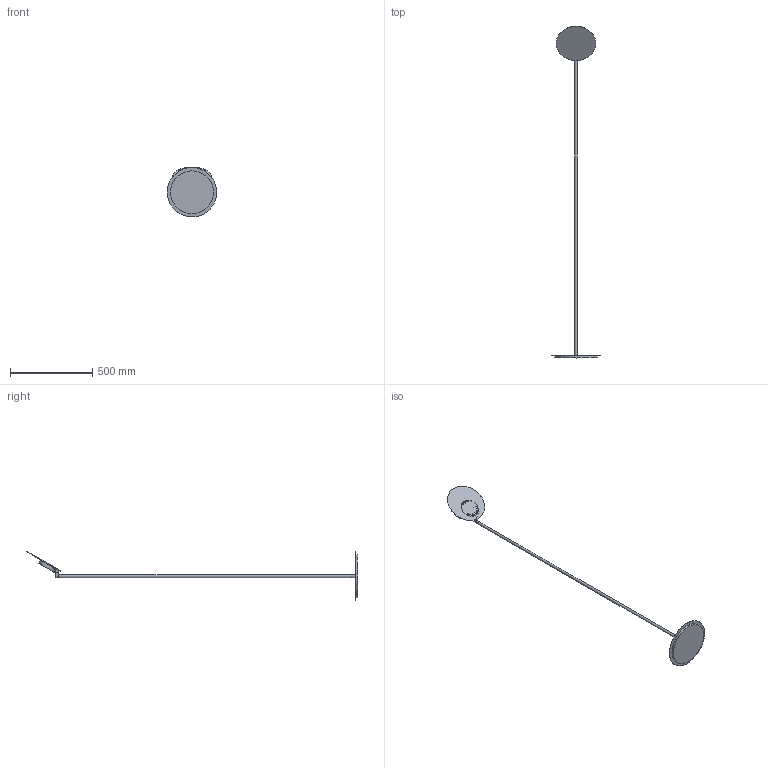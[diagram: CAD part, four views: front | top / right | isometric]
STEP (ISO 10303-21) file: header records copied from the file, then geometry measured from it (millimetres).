
FILE_DESCRIPTION(/* description */ (''),/* implementation_level */ '2;1');
FILE_NAME(/* name */ 'STOP.stp',/* time_stamp */ '2025-01-29T11:57:55+01:00',/* author */ ('n.bisotti'),/* organization */ (''),/* preprocessor_version */ 'ST-DEVELOPER v19.2',/* originating_system */ 'Autodesk Inventor 2023',/* authorisation */ '');
FILE_SCHEMA (('AUTOMOTIVE_DESIGN { 1 0 10303 214 3 1 1 }'));
Length unit declared in the file: millimetre
Products named in the file (1): Parte1
Bounding box: 299.54 x 2012.08 x 302.31 mm (x, y, z)
Volume: 1187920.9 mm3; surface area: 578805.4 mm2
Topology: 15 solids, 15 shells, 251 faces, 630 edges, 421 vertices
Faces by surface type: plane 122, cylinder 89, cone 26, torus 14
Full cylindrical faces by diameter (mm): 2.25 x4, 2.459 x3, 3 x1, 3.25 x2, 6 x3, 6.25 x1, 10 x1, 10.1 x1, 10.106 x1, 10.25 x1, 11 x1, 12.75 x1, 16 x1, 64.5 x1, 67 x1, 68.25 x1, 114 x1, 240 x1, 260 x1, 300 x1
Entity records: 8135 total; most frequent: CARTESIAN_POINT 1490, DIRECTION 1371, ORIENTED_EDGE 1246, EDGE_CURVE 623, AXIS2_PLACEMENT_3D 513, VERTEX_POINT 421, LINE 345, VECTOR 345
